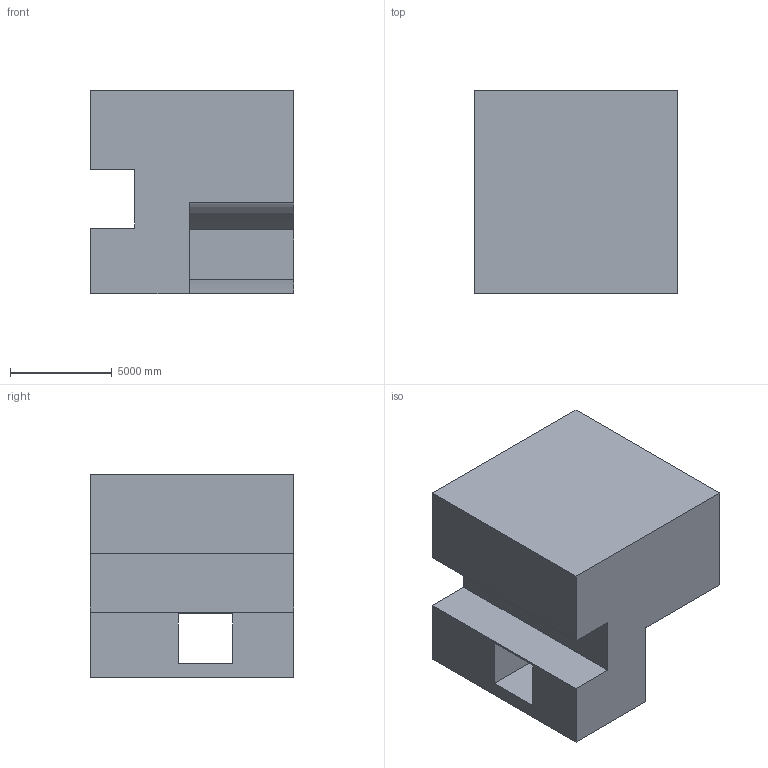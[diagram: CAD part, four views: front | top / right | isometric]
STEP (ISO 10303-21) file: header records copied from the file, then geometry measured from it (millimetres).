
FILE_DESCRIPTION (( 'STEP AP203' ), '1' );
FILE_NAME ('1208.STEP', '2022-08-25T14:46:11', ( 'user' ), ( '' ), 'SwSTEP 2.0', 'SolidWorks 2021', '' );
FILE_SCHEMA (( 'CONFIG_CONTROL_DESIGN' ));
Length unit declared in the file: centimetre
Products named in the file (1): 1208
Bounding box: 10000 x 10000 x 10000 mm (x, y, z)
Volume: 803615822144.1 mm3; surface area: 675567909.8 mm2
Topology: 1 solids, 1 shells, 17 faces, 48 edges, 32 vertices
Faces by surface type: plane 15, cylinder 2
Entity records: 627 total; most frequent: CARTESIAN_POINT 98, ORIENTED_EDGE 96, DIRECTION 88, EDGE_CURVE 48, LINE 44, VECTOR 44, VERTEX_POINT 32, AXIS2_PLACEMENT_3D 22
